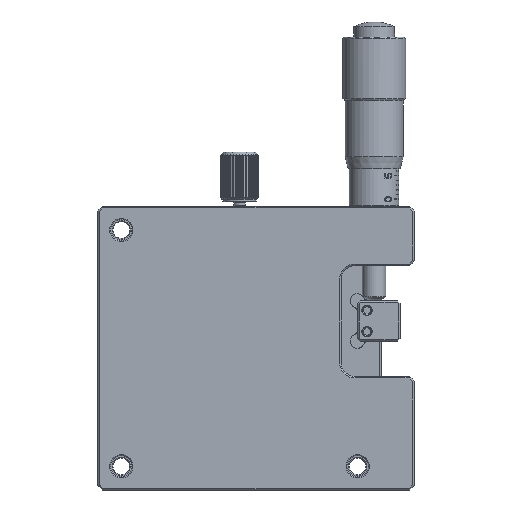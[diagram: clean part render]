
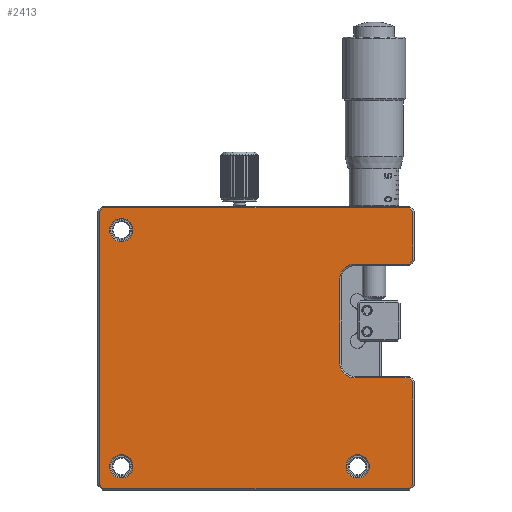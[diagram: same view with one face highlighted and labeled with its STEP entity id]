
A CAD part, front view. The second image highlights one B-rep face of the part: STEP entity #2413.
In plain terms, the highlighted planar face has unit normal (0, -1, 0).
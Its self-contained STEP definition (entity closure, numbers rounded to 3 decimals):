
#88=DIRECTION('',(-0.707,0.,-0.707));
#89=VECTOR('',#88,1.166);
#90=CARTESIAN_POINT('',(36.7,-13.5,18.624));
#91=LINE('',#90,#89);
#92=DIRECTION('',(-1.,0.,0.));
#93=VECTOR('',#92,11.376);
#94=CARTESIAN_POINT('',(35.876,-13.5,17.8));
#95=LINE('',#94,#93);
#96=CARTESIAN_POINT('',(24.5,-13.5,14.5));
#97=DIRECTION('',(0.,-1.,0.));
#98=DIRECTION('',(0.,0.,1.));
#99=AXIS2_PLACEMENT_3D('',#96,#97,#98);
#101=DIRECTION('',(0.,0.,-1.));
#102=VECTOR('',#101,17.5);
#103=CARTESIAN_POINT('',(21.2,-13.5,14.5));
#104=LINE('',#103,#102);
#105=CARTESIAN_POINT('',(24.5,-13.5,-3.));
#106=DIRECTION('',(0.,-1.,0.));
#107=DIRECTION('',(-1.,0.,0.));
#108=AXIS2_PLACEMENT_3D('',#105,#106,#107);
#110=DIRECTION('',(1.,0.,0.));
#111=VECTOR('',#110,11.376);
#112=CARTESIAN_POINT('',(24.5,-13.5,-6.3));
#113=LINE('',#112,#111);
#114=DIRECTION('',(0.707,0.,-0.707));
#115=VECTOR('',#114,1.166);
#116=CARTESIAN_POINT('',(35.876,-13.5,-6.3));
#117=LINE('',#116,#115);
#118=DIRECTION('',(0.,0.,-1.));
#119=VECTOR('',#118,21.751);
#120=CARTESIAN_POINT('',(36.7,-13.5,-7.124));
#121=LINE('',#120,#119);
#122=DIRECTION('',(-0.707,0.,-0.707));
#123=VECTOR('',#122,1.166);
#124=CARTESIAN_POINT('',(36.7,-13.5,-28.876));
#125=LINE('',#124,#123);
#126=DIRECTION('',(-1.,0.,0.));
#127=VECTOR('',#126,64.751);
#128=CARTESIAN_POINT('',(35.876,-13.5,-29.7));
#129=LINE('',#128,#127);
#130=DIRECTION('',(-0.707,0.,0.707));
#131=VECTOR('',#130,1.166);
#132=CARTESIAN_POINT('',(-28.876,-13.5,-29.7));
#133=LINE('',#132,#131);
#134=DIRECTION('',(0.,0.,1.));
#135=VECTOR('',#134,57.751);
#136=CARTESIAN_POINT('',(-29.7,-13.5,-28.876));
#137=LINE('',#136,#135);
#138=DIRECTION('',(0.707,0.,0.707));
#139=VECTOR('',#138,1.166);
#140=CARTESIAN_POINT('',(-29.7,-13.5,28.876));
#141=LINE('',#140,#139);
#142=DIRECTION('',(1.,0.,0.));
#143=VECTOR('',#142,64.751);
#144=CARTESIAN_POINT('',(-28.876,-13.5,29.7));
#145=LINE('',#144,#143);
#146=DIRECTION('',(0.707,0.,-0.707));
#147=VECTOR('',#146,1.166);
#148=CARTESIAN_POINT('',(35.876,-13.5,29.7));
#149=LINE('',#148,#147);
#150=DIRECTION('',(0.,0.,-1.));
#151=VECTOR('',#150,10.251);
#152=CARTESIAN_POINT('',(36.7,-13.5,28.876));
#153=LINE('',#152,#151);
#154=CARTESIAN_POINT('',(25.,-13.5,-25.));
#155=DIRECTION('',(0.,-1.,0.));
#156=DIRECTION('',(1.,0.,0.));
#157=AXIS2_PLACEMENT_3D('',#154,#155,#156);
#159=CARTESIAN_POINT('',(25.,-13.5,-25.));
#160=DIRECTION('',(0.,-1.,0.));
#161=DIRECTION('',(0.,0.,1.));
#162=AXIS2_PLACEMENT_3D('',#159,#160,#161);
#164=CARTESIAN_POINT('',(25.,-13.5,-25.));
#165=DIRECTION('',(0.,-1.,0.));
#166=DIRECTION('',(-1.,0.,0.));
#167=AXIS2_PLACEMENT_3D('',#164,#165,#166);
#169=CARTESIAN_POINT('',(25.,-13.5,-25.));
#170=DIRECTION('',(0.,-1.,0.));
#171=DIRECTION('',(0.,0.,-1.));
#172=AXIS2_PLACEMENT_3D('',#169,#170,#171);
#174=CARTESIAN_POINT('',(-25.,-13.5,-25.));
#175=DIRECTION('',(0.,-1.,0.));
#176=DIRECTION('',(-1.,0.,0.));
#177=AXIS2_PLACEMENT_3D('',#174,#175,#176);
#179=CARTESIAN_POINT('',(-25.,-13.5,-25.));
#180=DIRECTION('',(0.,-1.,0.));
#181=DIRECTION('',(0.,0.,-1.));
#182=AXIS2_PLACEMENT_3D('',#179,#180,#181);
#184=CARTESIAN_POINT('',(-25.,-13.5,-25.));
#185=DIRECTION('',(0.,-1.,0.));
#186=DIRECTION('',(1.,0.,0.));
#187=AXIS2_PLACEMENT_3D('',#184,#185,#186);
#189=CARTESIAN_POINT('',(-25.,-13.5,-25.));
#190=DIRECTION('',(0.,-1.,0.));
#191=DIRECTION('',(0.,0.,1.));
#192=AXIS2_PLACEMENT_3D('',#189,#190,#191);
#194=CARTESIAN_POINT('',(-25.,-13.5,25.));
#195=DIRECTION('',(0.,-1.,0.));
#196=DIRECTION('',(1.,0.,0.));
#197=AXIS2_PLACEMENT_3D('',#194,#195,#196);
#199=CARTESIAN_POINT('',(-25.,-13.5,25.));
#200=DIRECTION('',(0.,-1.,0.));
#201=DIRECTION('',(0.,0.,1.));
#202=AXIS2_PLACEMENT_3D('',#199,#200,#201);
#204=CARTESIAN_POINT('',(-25.,-13.5,25.));
#205=DIRECTION('',(0.,-1.,0.));
#206=DIRECTION('',(-1.,0.,0.));
#207=AXIS2_PLACEMENT_3D('',#204,#205,#206);
#209=CARTESIAN_POINT('',(-25.,-13.5,25.));
#210=DIRECTION('',(0.,-1.,0.));
#211=DIRECTION('',(0.,0.,-1.));
#212=AXIS2_PLACEMENT_3D('',#209,#210,#211);
#1834=CARTESIAN_POINT('',(21.2,-13.5,14.5));
#1835=CARTESIAN_POINT('',(21.2,-13.5,
-3.));
#1836=VERTEX_POINT('',#1834);
#1837=VERTEX_POINT('',#1835);
#1838=CARTESIAN_POINT('',(36.7,-13.5,18.624));
#1839=CARTESIAN_POINT('',(35.876,-13.5,17.8));
#1840=VERTEX_POINT('',#1838);
#1841=VERTEX_POINT('',#1839);
#1842=CARTESIAN_POINT('',(24.5,-13.5,17.8));
#1843=VERTEX_POINT('',#1842);
#1844=CARTESIAN_POINT('',(24.5,-13.5,-6.3));
#1845=VERTEX_POINT('',#1844);
#1846=CARTESIAN_POINT('',(35.876,-13.5,-6.3));
#1847=VERTEX_POINT('',#1846);
#1848=CARTESIAN_POINT('',(36.7,-13.5,-7.124));
#1849=VERTEX_POINT('',#1848);
#1850=CARTESIAN_POINT('',(36.7,-13.5,-28.876));
#1851=VERTEX_POINT('',#1850);
#1852=CARTESIAN_POINT('',(35.876,-13.5,-29.7));
#1853=VERTEX_POINT('',#1852);
#1854=CARTESIAN_POINT('',(-28.876,-13.5,-29.7));
#1855=VERTEX_POINT('',#1854);
#1856=CARTESIAN_POINT('',(-29.7,-13.5,-28.876));
#1857=VERTEX_POINT('',#1856);
#1858=CARTESIAN_POINT('',(-29.7,-13.5,28.876));
#1859=VERTEX_POINT('',#1858);
#1860=CARTESIAN_POINT('',(-28.876,-13.5,29.7));
#1861=VERTEX_POINT('',#1860);
#1862=CARTESIAN_POINT('',(35.876,-13.5,29.7));
#1863=VERTEX_POINT('',#1862);
#1864=CARTESIAN_POINT('',(36.7,-13.5,28.876));
#1865=VERTEX_POINT('',#1864);
#1866=CARTESIAN_POINT('',(25.,-13.5,-22.55));
#1867=CARTESIAN_POINT('',(22.55,-13.5,-25.));
#1868=VERTEX_POINT('',#1866);
#1869=VERTEX_POINT('',#1867);
#1870=CARTESIAN_POINT('',(27.45,-13.5,-25.));
#1871=VERTEX_POINT('',#1870);
#1872=CARTESIAN_POINT('',(25.,-13.5,-27.45));
#1873=VERTEX_POINT('',#1872);
#1874=CARTESIAN_POINT('',(-25.,-13.5,-27.45));
#1875=CARTESIAN_POINT('',(-22.55,-13.5,-25.));
#1876=VERTEX_POINT('',#1874);
#1877=VERTEX_POINT('',#1875);
#1878=CARTESIAN_POINT('',(-27.45,-13.5,-25.));
#1879=VERTEX_POINT('',#1878);
#1880=CARTESIAN_POINT('',(-25.,-13.5,-22.55));
#1881=VERTEX_POINT('',#1880);
#1882=CARTESIAN_POINT('',(-25.,-13.5,27.45));
#1883=CARTESIAN_POINT('',(-27.45,-13.5,25.));
#1884=VERTEX_POINT('',#1882);
#1885=VERTEX_POINT('',#1883);
#1886=CARTESIAN_POINT('',(-22.55,-13.5,25.));
#1887=VERTEX_POINT('',#1886);
#1888=CARTESIAN_POINT('',(-25.,-13.5,22.55));
#1889=VERTEX_POINT('',#1888);
#2345=CARTESIAN_POINT('',(0.,-13.5,0.));
#2346=DIRECTION('',(0.,1.,0.));
#2347=DIRECTION('',(1.,0.,0.));
#2348=AXIS2_PLACEMENT_3D('',#2345,#2346,#2347);
#2349=PLANE('',#2348);
#2351=ORIENTED_EDGE('',*,*,#2350,.T.);
#2353=ORIENTED_EDGE('',*,*,#2352,.T.);
#2355=ORIENTED_EDGE('',*,*,#2354,.T.);
#2356=ORIENTED_EDGE('',*,*,#2335,.T.);
#2358=ORIENTED_EDGE('',*,*,#2357,.T.);
#2360=ORIENTED_EDGE('',*,*,#2359,.T.);
#2362=ORIENTED_EDGE('',*,*,#2361,.T.);
#2364=ORIENTED_EDGE('',*,*,#2363,.T.);
#2366=ORIENTED_EDGE('',*,*,#2365,.T.);
#2368=ORIENTED_EDGE('',*,*,#2367,.T.);
#2370=ORIENTED_EDGE('',*,*,#2369,.T.);
#2372=ORIENTED_EDGE('',*,*,#2371,.T.);
#2374=ORIENTED_EDGE('',*,*,#2373,.T.);
#2376=ORIENTED_EDGE('',*,*,#2375,.T.);
#2378=ORIENTED_EDGE('',*,*,#2377,.T.);
#2380=ORIENTED_EDGE('',*,*,#2379,.T.);
#2381=EDGE_LOOP('',(#2351,#2353,#2355,#2356,#2358,#2360,#2362,#2364,#2366,#2368,
#2370,#2372,#2374,#2376,#2378,#2380));
#2382=FACE_OUTER_BOUND('',#2381,.F.);
#2384=ORIENTED_EDGE('',*,*,#2383,.T.);
#2386=ORIENTED_EDGE('',*,*,#2385,.T.);
#2388=ORIENTED_EDGE('',*,*,#2387,.T.);
#2390=ORIENTED_EDGE('',*,*,#2389,.T.);
#2391=EDGE_LOOP('',(#2384,#2386,#2388,#2390));
#2392=FACE_BOUND('',#2391,.F.);
#2394=ORIENTED_EDGE('',*,*,#2393,.T.);
#2396=ORIENTED_EDGE('',*,*,#2395,.T.);
#2398=ORIENTED_EDGE('',*,*,#2397,.T.);
#2400=ORIENTED_EDGE('',*,*,#2399,.T.);
#2401=EDGE_LOOP('',(#2394,#2396,#2398,#2400));
#2402=FACE_BOUND('',#2401,.F.);
#2404=ORIENTED_EDGE('',*,*,#2403,.T.);
#2406=ORIENTED_EDGE('',*,*,#2405,.T.);
#2408=ORIENTED_EDGE('',*,*,#2407,.T.);
#2410=ORIENTED_EDGE('',*,*,#2409,.T.);
#2411=EDGE_LOOP('',(#2404,#2406,#2408,#2410));
#2412=FACE_BOUND('',#2411,.F.);
#2413=ADVANCED_FACE('',(#2382,#2392,#2402,#2412),#2349,.F.);
#100=CIRCLE('',#99,3.3);
#109=CIRCLE('',#108,3.3);
#158=CIRCLE('',#157,2.45);
#163=CIRCLE('',#162,2.45);
#168=CIRCLE('',#167,2.45);
#173=CIRCLE('',#172,2.45);
#178=CIRCLE('',#177,2.45);
#183=CIRCLE('',#182,2.45);
#188=CIRCLE('',#187,2.45);
#193=CIRCLE('',#192,2.45);
#198=CIRCLE('',#197,2.45);
#203=CIRCLE('',#202,2.45);
#208=CIRCLE('',#207,2.45);
#213=CIRCLE('',#212,2.45);
#2335=EDGE_CURVE('',#1836,#1837,#104,.T.);
#2350=EDGE_CURVE('',#1840,#1841,#91,.T.);
#2352=EDGE_CURVE('',#1841,#1843,#95,.T.);
#2354=EDGE_CURVE('',#1843,#1836,#100,.T.);
#2357=EDGE_CURVE('',#1837,#1845,#109,.T.);
#2359=EDGE_CURVE('',#1845,#1847,#113,.T.);
#2361=EDGE_CURVE('',#1847,#1849,#117,.T.);
#2363=EDGE_CURVE('',#1849,#1851,#121,.T.);
#2365=EDGE_CURVE('',#1851,#1853,#125,.T.);
#2367=EDGE_CURVE('',#1853,#1855,#129,.T.);
#2369=EDGE_CURVE('',#1855,#1857,#133,.T.);
#2371=EDGE_CURVE('',#1857,#1859,#137,.T.);
#2373=EDGE_CURVE('',#1859,#1861,#141,.T.);
#2375=EDGE_CURVE('',#1861,#1863,#145,.T.);
#2377=EDGE_CURVE('',#1863,#1865,#149,.T.);
#2379=EDGE_CURVE('',#1865,#1840,#153,.T.);
#2383=EDGE_CURVE('',#1871,#1868,#158,.T.);
#2385=EDGE_CURVE('',#1868,#1869,#163,.T.);
#2387=EDGE_CURVE('',#1869,#1873,#168,.T.);
#2389=EDGE_CURVE('',#1873,#1871,#173,.T.);
#2393=EDGE_CURVE('',#1879,#1876,#178,.T.);
#2395=EDGE_CURVE('',#1876,#1877,#183,.T.);
#2397=EDGE_CURVE('',#1877,#1881,#188,.T.);
#2399=EDGE_CURVE('',#1881,#1879,#193,.T.);
#2403=EDGE_CURVE('',#1887,#1884,#198,.T.);
#2405=EDGE_CURVE('',#1884,#1885,#203,.T.);
#2407=EDGE_CURVE('',#1885,#1889,#208,.T.);
#2409=EDGE_CURVE('',#1889,#1887,#213,.T.);
